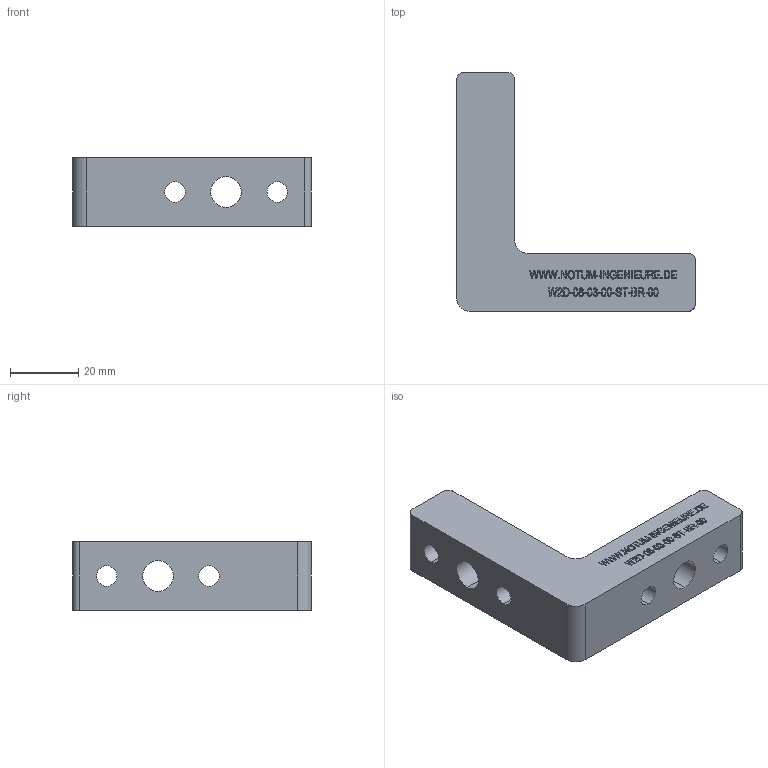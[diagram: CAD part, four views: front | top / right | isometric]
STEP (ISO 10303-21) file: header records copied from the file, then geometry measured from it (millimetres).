
FILE_DESCRIPTION (( 'STEP AP214' ), '1' );
FILE_NAME ('W2D-08-03-00-ST-BR-00__Notum.STEP', '2018-03-29T11:15:31', ( '' ), ( '' ), 'SwSTEP 2.0', 'SolidWorks 2015', '' );
FILE_SCHEMA (( 'AUTOMOTIVE_DESIGN' ));
Length unit declared in the file: millimetre
Products named in the file (1): W2D-08-03-00-ST-BR-00__Notum
Bounding box: 70 x 70 x 20 mm (x, y, z)
Volume: 37635.7 mm3; surface area: 11635.5 mm2
Topology: 1 solids, 1 shells, 555 faces, 1482 edges, 988 vertices
Faces by surface type: plane 350, bspline 187, cylinder 18
Entity records: 32622 total; most frequent: CARTESIAN_POINT 14205, ORIENTED_EDGE 2964, DIRECTION 1882, EDGE_CURVE 1482, LINE 1072, VECTOR 1072, VERTEX_POINT 988, EDGE_LOOP 626
